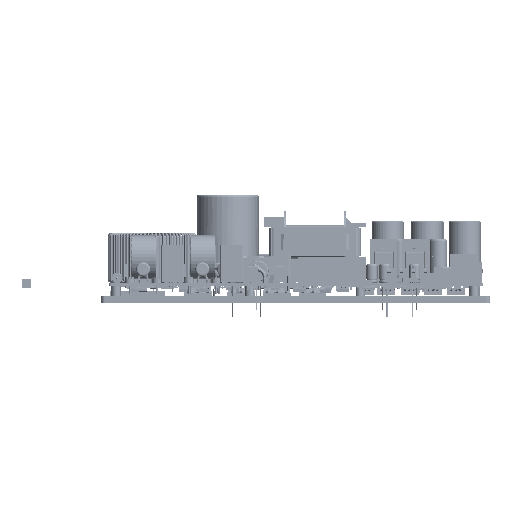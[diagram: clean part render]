
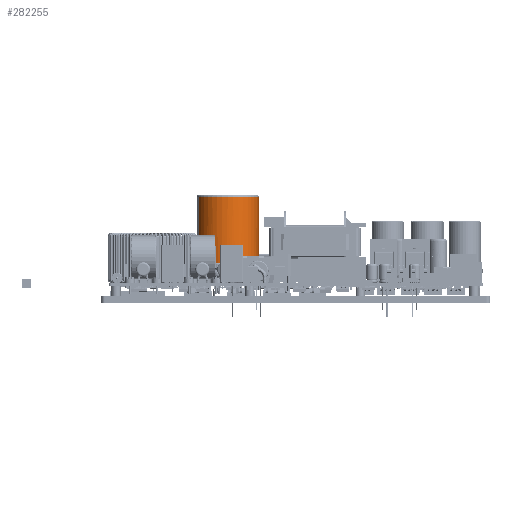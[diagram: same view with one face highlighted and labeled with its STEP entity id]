
A CAD part, front view. The second image highlights one B-rep face of the part: STEP entity #282255.
In plain terms, the highlighted cylindrical face has radius 17.5 mm (diameter 35 mm), a partial arc.
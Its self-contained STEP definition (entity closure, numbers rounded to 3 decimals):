
#282056 = VERTEX_POINT('',#282057);
#282057 = CARTESIAN_POINT('',(-15.155,-8.75,7.686));
#282063 = EDGE_CURVE('',#282056,#282064,#282066,.T.);
#282064 = VERTEX_POINT('',#282065);
#282065 = CARTESIAN_POINT('',(-8.75,-15.155,7.686));
#282066 = ( BOUNDED_CURVE() B_SPLINE_CURVE(11,(#282067,#282068,#282069,
    #282070,#282071,#282072,#282073,#282074,#282075,#282076,#282077,
    #282078,#282079,#282080,#282081,#282082,#282083,#282084,#282085,
    #282086,#282087,#282088),.UNSPECIFIED.,.F.,.F.) 
B_SPLINE_CURVE_WITH_KNOTS((12,10,12),(0.,50.358,
100.717),.UNSPECIFIED.) CURVE() GEOMETRIC_REPRESENTATION_ITEM() 
RATIONAL_B_SPLINE_CURVE((1.,1.,1.,1.,1.,1.,1.,1.,1.,1.,1.,1.,1.,1.,
    1.,1.,1.,1.,1.,1.,1.,1.)) 
REPRESENTATION_ITEM('') );
#282067 = CARTESIAN_POINT('',(-15.155,-8.75,7.686));
#282068 = CARTESIAN_POINT('',(-17.426,-4.818,
    7.686));
#282069 = CARTESIAN_POINT('',(-18.593,-0.205,
    7.686));
#282070 = CARTESIAN_POINT('',(-18.41,4.74,
    7.686));
#282071 = CARTESIAN_POINT('',(-16.766,9.526,
    7.686));
#282072 = CARTESIAN_POINT('',(-13.772,13.717,
    7.686));
#282073 = CARTESIAN_POINT('',(-9.662,16.833,
    7.686));
#282074 = CARTESIAN_POINT('',(-4.893,18.593,
    7.686));
#282075 = CARTESIAN_POINT('',(0.042,18.97,
    7.686));
#282076 = CARTESIAN_POINT('',(4.855,17.973,
    7.686));
#282077 = CARTESIAN_POINT('',(9.101,15.669,
    7.686));
#282078 = CARTESIAN_POINT('',(15.728,8.999,
    7.687));
#282079 = CARTESIAN_POINT('',(18.11,4.631,
    7.686));
#282080 = CARTESIAN_POINT('',(19.18,-0.5,
    7.686));
#282081 = CARTESIAN_POINT('',(18.662,-5.956,
    7.685));
#282082 = CARTESIAN_POINT('',(16.257,-11.06,
    7.686));
#282083 = CARTESIAN_POINT('',(12.52,-14.891,
    7.686));
#282084 = CARTESIAN_POINT('',(8.06,-17.269,
    7.689));
#282085 = CARTESIAN_POINT('',(3.664,-18.281,
    7.686));
#282086 = CARTESIAN_POINT('',(-0.603,-18.376,
    7.686));
#282087 = CARTESIAN_POINT('',(-4.835,-17.416,7.686
    ));
#282088 = CARTESIAN_POINT('',(-8.75,-15.155,7.686));
#282255 = ADVANCED_FACE('',(#282256),#282282,.T.);
#282256 = FACE_BOUND('',#282257,.T.);
#282257 = EDGE_LOOP('',(#282258,#282266,#282267,#282275));
#282258 = ORIENTED_EDGE('',*,*,#282259,.F.);
#282259 = EDGE_CURVE('',#282064,#282260,#282262,.T.);
#282260 = VERTEX_POINT('',#282261);
#282261 = CARTESIAN_POINT('',(-8.75,-15.155,49.));
#282262 = LINE('',#282263,#282264);
#282263 = CARTESIAN_POINT('',(-8.75,-15.155,0.));
#282264 = VECTOR('',#282265,1.);
#282265 = DIRECTION('',(0.,0.,1.));
#282266 = ORIENTED_EDGE('',*,*,#282063,.F.);
#282267 = ORIENTED_EDGE('',*,*,#282268,.T.);
#282268 = EDGE_CURVE('',#282056,#282269,#282271,.T.);
#282269 = VERTEX_POINT('',#282270);
#282270 = CARTESIAN_POINT('',(-15.155,-8.75,49.));
#282271 = LINE('',#282272,#282273);
#282272 = CARTESIAN_POINT('',(-15.155,-8.75,0.
    ));
#282273 = VECTOR('',#282274,1.);
#282274 = DIRECTION('',(0.,0.,1.));
#282275 = ORIENTED_EDGE('',*,*,#282276,.F.);
#282276 = EDGE_CURVE('',#282260,#282269,#282277,.T.);
#282277 = CIRCLE('',#282278,17.5);
#282278 = AXIS2_PLACEMENT_3D('',#282279,#282280,#282281);
#282279 = CARTESIAN_POINT('',(0.,0.,49.));
#282280 = DIRECTION('',(0.,0.,1.));
#282281 = DIRECTION('',(-0.5,-0.866,0.));
#282282 = CYLINDRICAL_SURFACE('',#282283,17.5);
#282283 = AXIS2_PLACEMENT_3D('',#282284,#282285,#282286);
#282284 = CARTESIAN_POINT('',(0.,0.,0.));
#282285 = DIRECTION('',(0.,0.,1.));
#282286 = DIRECTION('',(-0.5,-0.866,0.));
